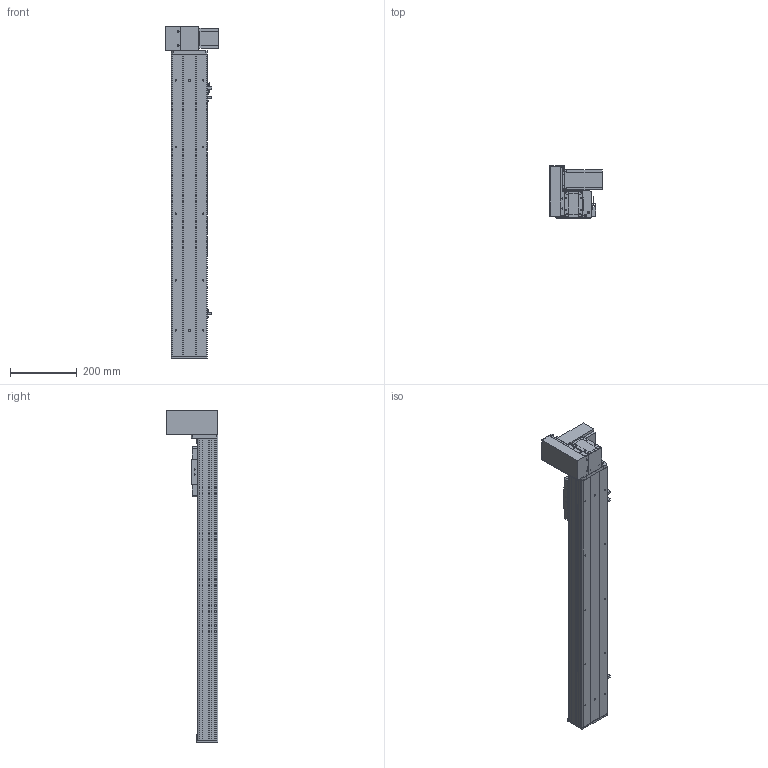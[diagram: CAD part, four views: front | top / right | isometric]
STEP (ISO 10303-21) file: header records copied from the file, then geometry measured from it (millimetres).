
FILE_DESCRIPTION (( 'STEP AP203' ), '1' );
FILE_NAME ('Y10CB-D90-S650-UL-P400W.STEP', '2020-02-16T07:11:58', ( '微软用户' ), ( '微软中国' ), 'SwSTEP 2.0', 'SolidWorks 2017', '' );
FILE_SCHEMA (( 'CONFIG_CONTROL_DESIGN' ));
Length unit declared in the file: millimetre
Products named in the file (18): 0CB-雄赽釱---; Y135C-陔俋离換覜結え-; 0Cb-俋欶---; Y100-135俋离換覜ん--; Y10B-々湍喘謫眊楊擘啣--; Y10B-耜蚾蟀諉啣----; 0B-埴倛裔啣; 0B-萇儂楊擘啣; 00B-俋欶BM--; 10CB-詩湍-; san松下电机400不带刹车----; Y10B--々湍喘謫眊--666; Y10CB- 掛极耜裔啣-毀---; 0B-源倛裔啣; Y10CB-D90-S650-UL-P400W; Y10C---詩湍揤啣; 10CB9-掛极; 10CB-耜裔
Assembly tree (21 placements, depth 2):
  Y10CB-D90-S650-UL-P400W
    0CB-雄赽釱---
    0Cb-俋欶---
    Y10B-々湍喘謫眊楊擘啣--
    0B-萇儂楊擘啣
    san松下电机400不带刹车----
    0B-源倛裔啣
    0B-埴倛裔啣
    10CB-詩湍-
    Y10CB- 掛极耜裔啣-毀---  x2
    Y10C---詩湍揤啣  x2
    10CB9-掛极
    10CB-耜裔
    Y135C-陔俋离換覜結え-
    Y100-135俋离換覜ん--  x3
    Y10B-耜蚾蟀諉啣----
    00B-俋欶BM--
    Y10B--々湍喘謫眊--666
Bounding box: 157 x 155.5 x 996 mm (x, y, z)
Volume: 2525227.5 mm3; surface area: 1103374.9 mm2
Topology: 21 solids, 21 shells, 966 faces, 2563 edges, 1682 vertices
Faces by surface type: plane 473, cylinder 469, cone 24
Entity records: 29912 total; most frequent: CARTESIAN_POINT 5173, DIRECTION 4862, ORIENTED_EDGE 4596, EDGE_CURVE 2298, AXIS2_PLACEMENT_3D 1741, VERTEX_POINT 1508, LINE 1380, VECTOR 1380
